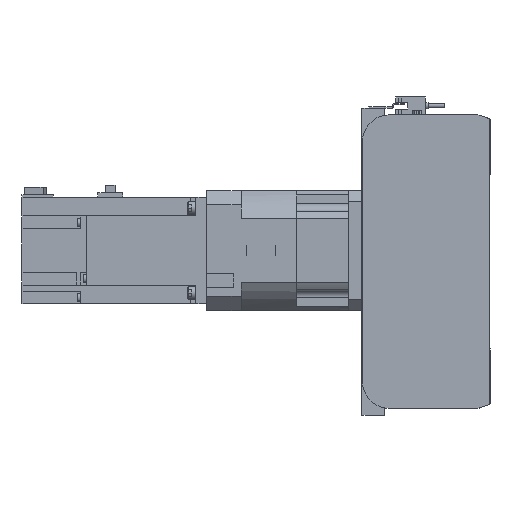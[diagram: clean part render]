
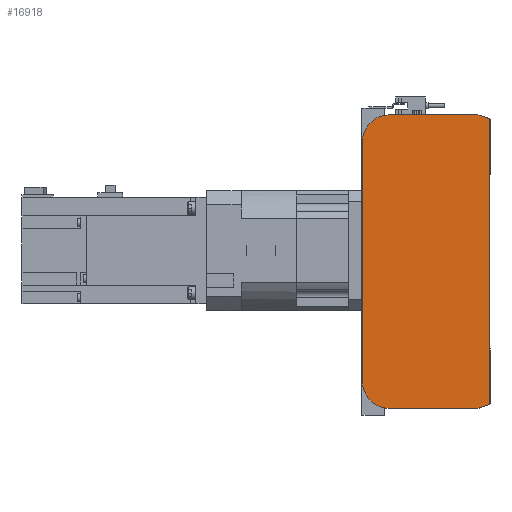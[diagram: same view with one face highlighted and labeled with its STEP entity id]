
A CAD part, left-side view. The second image highlights one B-rep face of the part: STEP entity #16918.
In plain terms, the highlighted planar face has unit normal (-1, 0, 0).
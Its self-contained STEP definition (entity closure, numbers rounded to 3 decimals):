
#952=CIRCLE('',#18459,20.);
#953=CIRCLE('',#18462,20.);
#4330=ORIENTED_EDGE('',*,*,#7368,.F.);
#4331=ORIENTED_EDGE('',*,*,#7410,.F.);
#4332=ORIENTED_EDGE('',*,*,#7408,.F.);
#4333=ORIENTED_EDGE('',*,*,#7406,.F.);
#4334=ORIENTED_EDGE('',*,*,#7395,.F.);
#4335=ORIENTED_EDGE('',*,*,#7386,.F.);
#4336=ORIENTED_EDGE('',*,*,#7382,.F.);
#4337=ORIENTED_EDGE('',*,*,#7379,.F.);
#7368=EDGE_CURVE('',#9231,#9232,#10747,.T.);
#7379=EDGE_CURVE('',#9232,#9239,#10758,.T.);
#7382=EDGE_CURVE('',#9239,#9241,#10761,.T.);
#7386=EDGE_CURVE('',#9241,#9242,#10765,.T.);
#7395=EDGE_CURVE('',#9242,#9248,#10774,.T.);
#7406=EDGE_CURVE('',#9248,#9255,#952,.T.);
#7408=EDGE_CURVE('',#9255,#9256,#10786,.T.);
#7410=EDGE_CURVE('',#9256,#9231,#953,.T.);
#9231=VERTEX_POINT('',#27745);
#9232=VERTEX_POINT('',#27747);
#9239=VERTEX_POINT('',#27766);
#9241=VERTEX_POINT('',#27772);
#9242=VERTEX_POINT('',#27778);
#9248=VERTEX_POINT('',#27794);
#9255=VERTEX_POINT('',#27813);
#9256=VERTEX_POINT('',#27817);
#10747=LINE('',#27746,#12306);
#10758=LINE('',#27765,#12317);
#10761=LINE('',#27771,#12320);
#10765=LINE('',#27777,#12324);
#10774=LINE('',#27793,#12333);
#10786=LINE('',#27816,#12345);
#12306=VECTOR('',#22438,1000.);
#12317=VECTOR('',#22451,1000.);
#12320=VECTOR('',#22456,1000.);
#12324=VECTOR('',#22462,1000.);
#12333=VECTOR('',#22473,1000.);
#12345=VECTOR('',#22491,1000.);
#13730=EDGE_LOOP('',(#4330,#4331,#4332,#4333,#4334,#4335,#4336,#4337));
#15178=FACE_BOUND('',#13730,.T.);
#16065=PLANE('',#18463);
#16918=ADVANCED_FACE('',(#15178),#16065,.F.);
#18459=AXIS2_PLACEMENT_3D('',#27812,#22486,#22487);
#18462=AXIS2_PLACEMENT_3D('',#27820,#22495,#22496);
#18463=AXIS2_PLACEMENT_3D('',#27821,#22497,#22498);
#22438=DIRECTION('',(0.,-1.,0.));
#22451=DIRECTION('',(0.,-0.945,-0.328));
#22456=DIRECTION('',(0.,0.,-1.));
#22462=DIRECTION('',(0.,0.945,-0.328));
#22473=DIRECTION('',(0.,1.,0.));
#22486=DIRECTION('',(1.,0.,0.));
#22487=DIRECTION('',(0.,0.,-1.));
#22491=DIRECTION('',(0.,0.,1.));
#22495=DIRECTION('',(1.,0.,0.));
#22496=DIRECTION('',(0.,0.,-1.));
#22497=DIRECTION('',(1.,0.,0.));
#22498=DIRECTION('',(0.,0.,-1.));
#27745=CARTESIAN_POINT('',(0.,75.5,110.));
#27746=CARTESIAN_POINT('',(0.,75.5,110.));
#27747=CARTESIAN_POINT('',(0.,9.,110.));
#27765=CARTESIAN_POINT('',(0.,9.,110.));
#27766=CARTESIAN_POINT('',(0.,0.5,107.05));
#27771=CARTESIAN_POINT('',(0.,0.5,107.05));
#27772=CARTESIAN_POINT('',(0.,0.5,-107.05));
#27777=CARTESIAN_POINT('',(0.,0.5,-107.05));
#27778=CARTESIAN_POINT('',(0.,9.,-110.));
#27793=CARTESIAN_POINT('',(0.,9.,-110.));
#27794=CARTESIAN_POINT('',(0.,75.5,-110.));
#27812=CARTESIAN_POINT('',(0.,75.5,-90.));
#27813=CARTESIAN_POINT('',(0.,95.5,-90.));
#27816=CARTESIAN_POINT('',(0.,95.5,-90.));
#27817=CARTESIAN_POINT('',(0.,95.5,90.));
#27820=CARTESIAN_POINT('',(0.,75.5,90.));
#27821=CARTESIAN_POINT('',(0.,75.5,-90.));
